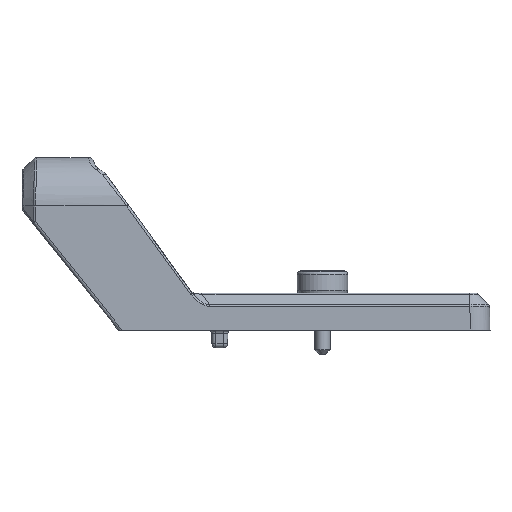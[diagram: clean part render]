
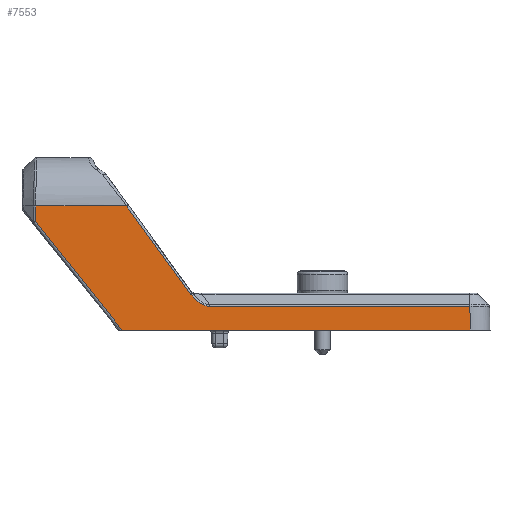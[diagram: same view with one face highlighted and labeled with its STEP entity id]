
A CAD part, left-side view. The second image highlights one B-rep face of the part: STEP entity #7553.
In plain terms, the highlighted planar face has unit normal (-1, 0, 0.018).
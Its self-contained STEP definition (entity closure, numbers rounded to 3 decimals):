
#75=CARTESIAN_POINT('',(-44.05,51.617,0.));
#84=DIRECTION('',(0.,-1.,0.));
#85=VECTOR('',#84,89.718);
#86=CARTESIAN_POINT('',(-44.05,51.617,0.));
#87=LINE('',#86,#85);
#98=CARTESIAN_POINT('',(-44.05,-38.101,0.));
#701=DIRECTION('',(-0.017,0.017,-1.));
#702=VECTOR('',#701,4.032);
#703=CARTESIAN_POINT('',(-43.492,73.899,31.972));
#704=LINE('',#703,#702);
#705=DIRECTION('',(0.,-1.,0.));
#706=VECTOR('',#705,23.395);
#707=CARTESIAN_POINT('',(-43.492,73.899,31.972));
#708=LINE('',#707,#706);
#709=CARTESIAN_POINT('',(-43.89,33.933,9.192));
#710=CARTESIAN_POINT('',(-43.878,34.404,9.839));
#711=CARTESIAN_POINT('',(-43.856,35.313,11.089));
#712=CARTESIAN_POINT('',(-43.826,36.576,12.826));
#713=CARTESIAN_POINT('',(-43.798,37.749,14.439));
#714=CARTESIAN_POINT('',(-43.772,38.837,15.935));
#715=CARTESIAN_POINT('',(-43.748,39.847,17.324));
#716=CARTESIAN_POINT('',(-43.725,40.785,18.613));
#717=CARTESIAN_POINT('',(-43.704,41.655,19.809));
#718=CARTESIAN_POINT('',(-43.685,42.462,20.919));
#719=CARTESIAN_POINT('',(-43.667,43.211,21.949));
#720=CARTESIAN_POINT('',(-43.65,43.906,22.905));
#721=CARTESIAN_POINT('',(-43.635,44.551,23.791));
#722=CARTESIAN_POINT('',(-43.62,45.149,24.614));
#723=CARTESIAN_POINT('',(-43.607,45.704,25.377));
#724=CARTESIAN_POINT('',(-43.595,46.218,26.083));
#725=CARTESIAN_POINT('',(-43.583,46.694,26.738));
#726=CARTESIAN_POINT('',(-43.573,47.136,27.347));
#727=CARTESIAN_POINT('',(-43.563,47.548,27.913));
#728=CARTESIAN_POINT('',(-43.554,47.929,28.437));
#729=CARTESIAN_POINT('',(-43.545,48.28,28.92));
#730=CARTESIAN_POINT('',(-43.538,48.6,29.359));
#731=CARTESIAN_POINT('',(-43.531,48.893,29.761));
#732=CARTESIAN_POINT('',(-43.524,49.169,30.14));
#733=CARTESIAN_POINT('',(-43.518,49.434,30.506));
#734=CARTESIAN_POINT('',(-43.511,49.7,30.872));
#735=CARTESIAN_POINT('',(-43.505,49.966,31.241));
#736=CARTESIAN_POINT('',(-43.498,50.235,31.608));
#737=CARTESIAN_POINT('',(-43.494,50.414,31.851));
#738=CARTESIAN_POINT('',(-43.492,50.505,31.972));
#740=CARTESIAN_POINT('',(-43.943,29.072,6.143));
#741=CARTESIAN_POINT('',(-43.943,29.171,6.143));
#742=CARTESIAN_POINT('',(-43.943,29.377,6.152));
#743=CARTESIAN_POINT('',(-43.942,29.71,6.196));
#744=CARTESIAN_POINT('',(-43.94,30.067,6.276));
#745=CARTESIAN_POINT('',(-43.938,30.45,6.396));
#746=CARTESIAN_POINT('',(-43.935,30.856,6.561));
#747=CARTESIAN_POINT('',(-43.932,31.283,6.776));
#748=CARTESIAN_POINT('',(-43.927,31.728,7.044));
#749=CARTESIAN_POINT('',(-43.921,32.184,7.369));
#750=CARTESIAN_POINT('',(-43.915,32.643,7.75));
#751=CARTESIAN_POINT('',(-43.907,33.096,8.184));
#752=CARTESIAN_POINT('',(-43.899,33.532,8.667));
#753=CARTESIAN_POINT('',(-43.893,33.802,9.013));
#754=CARTESIAN_POINT('',(-43.89,33.933,9.192));
#756=DIRECTION('',(0.,1.,0.));
#757=VECTOR('',#756,67.065);
#758=CARTESIAN_POINT('',(-43.943,-37.994,6.143));
#759=LINE('',#758,#757);
#760=DIRECTION('',(0.017,0.017,1.));
#761=VECTOR('',#760,6.145);
#762=CARTESIAN_POINT('',(-44.05,-38.101,0.));
#763=LINE('',#762,#761);
#764=DIRECTION('',(-0.014,-0.625,-0.781));
#765=VECTOR('',#764,35.785);
#766=CARTESIAN_POINT('',(-43.562,73.97,27.941));
#767=LINE('',#766,#765);
#1837=CARTESIAN_POINT('',(-43.492,73.899,31.972));
#1868=CARTESIAN_POINT('',(-43.492,50.505,31.972));
#5754=VERTEX_POINT('',#98);
#6075=VERTEX_POINT('',#1868);
#6077=VERTEX_POINT('',#709);
#6080=CARTESIAN_POINT('',(-43.943,-37.994,
6.143));
#6081=VERTEX_POINT('',#6080);
#6239=CARTESIAN_POINT('',(-43.943,29.072,6.143));
#6240=VERTEX_POINT('',#6239);
#6281=VERTEX_POINT('',#1837);
#6283=CARTESIAN_POINT('',(-43.562,73.97,27.941));
#6284=VERTEX_POINT('',#6283);
#6287=VERTEX_POINT('',#75);
#7532=CARTESIAN_POINT('',(-44.05,80.083,0.));
#7533=DIRECTION('',(-1.,0.,0.017));
#7534=DIRECTION('',(0.,1.,0.));
#7535=AXIS2_PLACEMENT_3D('',#7532,#7533,#7534);
#7536=PLANE('',#7535);
#7538=ORIENTED_EDGE('',*,*,#7537,.F.);
#7540=ORIENTED_EDGE('',*,*,#7539,.T.);
#7542=ORIENTED_EDGE('',*,*,#7541,.F.);
#7544=ORIENTED_EDGE('',*,*,#7543,.F.);
#7546=ORIENTED_EDGE('',*,*,#7545,.F.);
#7547=ORIENTED_EDGE('',*,*,#7513,.F.);
#7548=ORIENTED_EDGE('',*,*,#6564,.F.);
#7550=ORIENTED_EDGE('',*,*,#7549,.F.);
#7551=EDGE_LOOP('',(#7538,#7540,#7542,#7544,#7546,#7547,#7548,#7550));
#7552=FACE_OUTER_BOUND('',#7551,.F.);
#739=B_SPLINE_CURVE_WITH_KNOTS('',3,(#709,#710,#711,#712,#713,#714,#715,#716,
#717,#718,#719,#720,#721,#722,#723,#724,#725,#726,#727,#728,#729,#730,#731,#732,
#733,#734,#735,#736,#737,#738),.UNSPECIFIED.,.F.,.F.,(4,1,1,1,1,1,1,1,1,1,1,1,1,
1,1,1,1,1,1,1,1,1,1,1,1,1,1,4),(0.,0.037,0.074,
0.111,0.148,0.185,0.222,
0.259,0.296,0.333,0.37,
0.407,0.444,0.481,0.519,
0.556,0.593,0.63,0.667,
0.704,0.741,0.778,0.815,
0.852,0.889,0.926,0.963,1.),
.UNSPECIFIED.);
#755=B_SPLINE_CURVE_WITH_KNOTS('',3,(#740,#741,#742,#743,#744,#745,#746,#747,
#748,#749,#750,#751,#752,#753,#754),.UNSPECIFIED.,.F.,.F.,(4,1,1,1,1,1,1,1,1,1,
1,1,4),(0.,0.083,0.167,0.25,0.333,
0.417,0.5,0.583,0.667,0.75,
0.833,0.917,1.),.UNSPECIFIED.);
#6564=EDGE_CURVE('',#6287,#5754,#87,.T.);
#7513=EDGE_CURVE('',#5754,#6081,#763,.T.);
#7537=EDGE_CURVE('',#6281,#6284,#704,.T.);
#7539=EDGE_CURVE('',#6281,#6075,#708,.T.);
#7541=EDGE_CURVE('',#6077,#6075,#739,.T.);
#7543=EDGE_CURVE('',#6240,#6077,#755,.T.);
#7545=EDGE_CURVE('',#6081,#6240,#759,.T.);
#7549=EDGE_CURVE('',#6284,#6287,#767,.T.);
#7553=ADVANCED_FACE('',(#7552),#7536,.T.);
